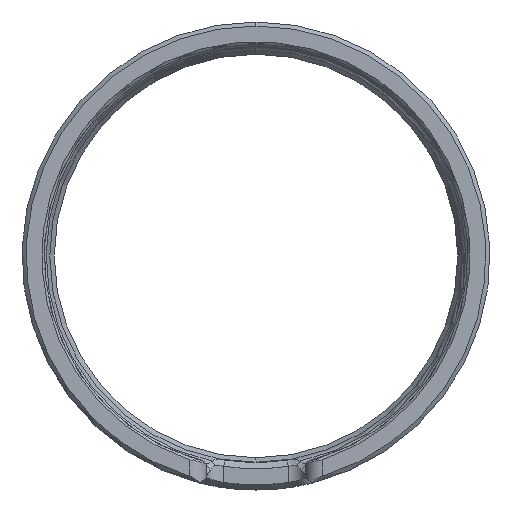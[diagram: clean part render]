
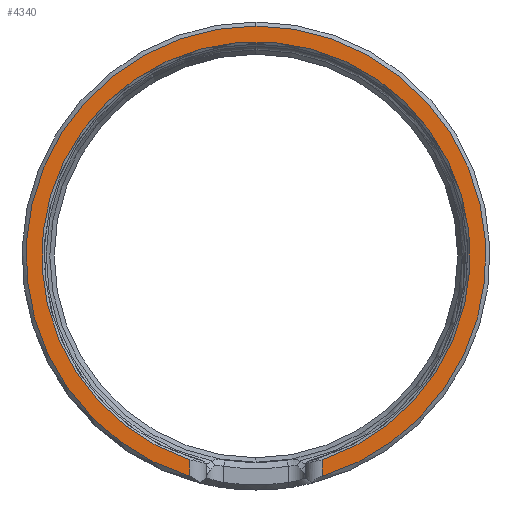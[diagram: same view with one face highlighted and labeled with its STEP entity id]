
A CAD part, left-side view. The second image highlights one B-rep face of the part: STEP entity #4340.
In plain terms, the highlighted planar face has unit normal (-1, 0, 0).
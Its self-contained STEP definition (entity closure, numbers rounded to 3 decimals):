
#103 = DIRECTION ( 'NONE',  ( -1., 0., 0. ) ) ;
#173 = ORIENTED_EDGE ( 'NONE', *, *, #3729, .T. ) ;
#441 = CARTESIAN_POINT ( 'NONE',  ( -100., 0., 0. ) ) ;
#475 = PLANE ( 'NONE',  #2726 ) ;
#612 = EDGE_CURVE ( 'NONE', #4107, #1990, #2756, .T. ) ;
#663 = AXIS2_PLACEMENT_3D ( 'NONE', #2481, #103, #5530 ) ;
#801 = DIRECTION ( 'NONE',  ( 0., 0., 1. ) ) ;
#865 = LINE ( 'NONE', #3971, #5417 ) ;
#1353 = CARTESIAN_POINT ( 'NONE',  ( -100., 8.2, -29. ) ) ;
#1440 = CARTESIAN_POINT ( 'NONE',  ( -100., -8.2, -25.252 ) ) ;
#1601 = VECTOR ( 'NONE', #801, 1000. ) ;
#1622 = CARTESIAN_POINT ( 'NONE',  ( -100., 8.2, -25.252 ) ) ;
#1818 = DIRECTION ( 'NONE',  ( 0., 0., 1. ) ) ;
#1915 = FACE_OUTER_BOUND ( 'NONE', #2555, .T. ) ;
#1990 = VERTEX_POINT ( 'NONE', #3545 ) ;
#2128 = CIRCLE ( 'NONE', #6051, 28.5 ) ;
#2173 = EDGE_CURVE ( 'NONE', #6089, #3608, #5626, .T. ) ;
#2481 = CARTESIAN_POINT ( 'NONE',  ( -100., 0., 0. ) ) ;
#2547 = EDGE_CURVE ( 'NONE', #1990, #5371, #2128, .T. ) ;
#2555 = EDGE_LOOP ( 'NONE', ( #5355, #4474, #4802, #173, #3398 ) ) ;
#2726 = AXIS2_PLACEMENT_3D ( 'NONE', #3375, #5961, #3409 ) ;
#2747 = LINE ( 'NONE', #1353, #1601 ) ;
#2756 = CIRCLE ( 'NONE', #3086, 28.5 ) ;
#2878 = DIRECTION ( 'NONE',  ( 0., 0., 1. ) ) ;
#3086 = AXIS2_PLACEMENT_3D ( 'NONE', #441, #4471, #6182 ) ;
#3375 = CARTESIAN_POINT ( 'NONE',  ( -100., 0., 0. ) ) ;
#3398 = ORIENTED_EDGE ( 'NONE', *, *, #2173, .F. ) ;
#3409 = DIRECTION ( 'NONE',  ( 0., 0., -1. ) ) ;
#3545 = CARTESIAN_POINT ( 'NONE',  ( -100., 0., 28.5 ) ) ;
#3608 = VERTEX_POINT ( 'NONE', #1622 ) ;
#3729 = EDGE_CURVE ( 'NONE', #5371, #3608, #2747, .T. ) ;
#3971 = CARTESIAN_POINT ( 'NONE',  ( -100., -8.2, -29. ) ) ;
#4107 = VERTEX_POINT ( 'NONE', #5316 ) ;
#4322 = EDGE_CURVE ( 'NONE', #4107, #6089, #865, .T. ) ;
#4340 = ADVANCED_FACE ( 'NONE', ( #1915 ), #475, .T. ) ;
#4341 = CARTESIAN_POINT ( 'NONE',  ( -100., 0., 0. ) ) ;
#4471 = DIRECTION ( 'NONE',  ( -1., 0., 0. ) ) ;
#4474 = ORIENTED_EDGE ( 'NONE', *, *, #612, .T. ) ;
#4797 = DIRECTION ( 'NONE',  ( -1., 0., 0. ) ) ;
#4802 = ORIENTED_EDGE ( 'NONE', *, *, #2547, .T. ) ;
#4809 = CARTESIAN_POINT ( 'NONE',  ( -100., 8.2, -27.295 ) ) ;
#5316 = CARTESIAN_POINT ( 'NONE',  ( -100., -8.2, -27.295 ) ) ;
#5355 = ORIENTED_EDGE ( 'NONE', *, *, #4322, .F. ) ;
#5371 = VERTEX_POINT ( 'NONE', #4809 ) ;
#5417 = VECTOR ( 'NONE', #2878, 1000. ) ;
#5530 = DIRECTION ( 'NONE',  ( 0., 0., 1. ) ) ;
#5626 = CIRCLE ( 'NONE', #663, 26.55 ) ;
#5961 = DIRECTION ( 'NONE',  ( -1., 0., 0. ) ) ;
#6051 = AXIS2_PLACEMENT_3D ( 'NONE', #4341, #4797, #1818 ) ;
#6089 = VERTEX_POINT ( 'NONE', #1440 ) ;
#6182 = DIRECTION ( 'NONE',  ( 0., 0., 1. ) ) ;
